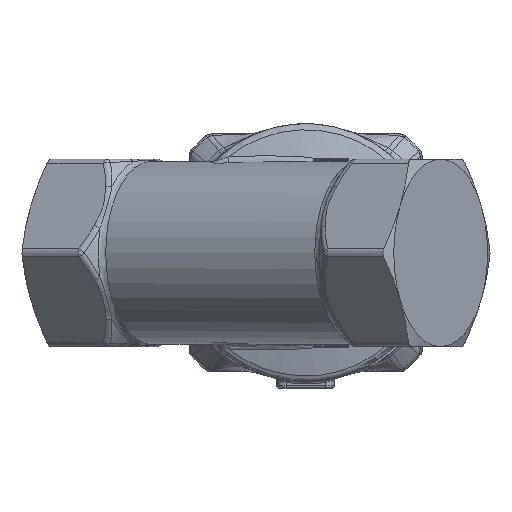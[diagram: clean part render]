
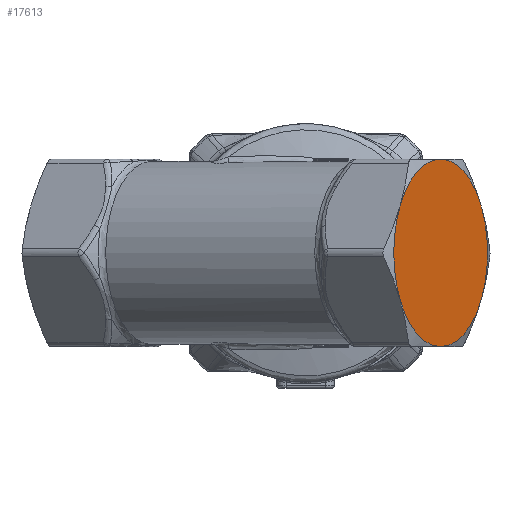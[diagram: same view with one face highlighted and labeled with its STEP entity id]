
A CAD part, front view. The second image highlights one B-rep face of the part: STEP entity #17613.
In plain terms, the highlighted planar face has unit normal (0.866, -0.5, 0).
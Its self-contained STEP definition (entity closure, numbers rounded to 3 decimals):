
#1022=PLANE($,#18692);
#1730=FACE_OUTER_BOUND($,#2838,.T.);
#2838=EDGE_LOOP($,(#14174,#14175,#14176,#14177,#14178,#14179));
#4687=CIRCLE($,#18693,22.875);
#4688=CIRCLE($,#18694,22.875);
#4689=CIRCLE($,#18695,22.875);
#4690=CIRCLE($,#18696,22.875);
#4691=CIRCLE($,#18697,22.875);
#4692=CIRCLE($,#18698,22.875);
#7708=VERTEX_POINT($,#44617);
#7709=VERTEX_POINT($,#44618);
#7710=VERTEX_POINT($,#44620);
#7711=VERTEX_POINT($,#44622);
#7712=VERTEX_POINT($,#44624);
#7713=VERTEX_POINT($,#44626);
#9905=EDGE_CURVE($,#7708,#7709,#4687,.T.);
#9906=EDGE_CURVE($,#7709,#7710,#4688,.T.);
#9907=EDGE_CURVE($,#7710,#7711,#4689,.T.);
#9908=EDGE_CURVE($,#7711,#7712,#4690,.T.);
#9909=EDGE_CURVE($,#7712,#7713,#4691,.T.);
#9910=EDGE_CURVE($,#7713,#7708,#4692,.T.);
#14174=ORIENTED_EDGE($,*,*,#9905,.T.);
#14175=ORIENTED_EDGE($,*,*,#9906,.T.);
#14176=ORIENTED_EDGE($,*,*,#9907,.T.);
#14177=ORIENTED_EDGE($,*,*,#9908,.T.);
#14178=ORIENTED_EDGE($,*,*,#9909,.T.);
#14179=ORIENTED_EDGE($,*,*,#9910,.T.);
#17613=ADVANCED_FACE($,(#1730),#1022,.F.);
#18692=AXIS2_PLACEMENT_3D($,#44616,#21227,#21228);
#18693=AXIS2_PLACEMENT_3D($,#44619,#21229,#21230);
#18694=AXIS2_PLACEMENT_3D($,#44621,#21231,#21232);
#18695=AXIS2_PLACEMENT_3D($,#44623,#21233,#21234);
#18696=AXIS2_PLACEMENT_3D($,#44625,#21235,#21236);
#18697=AXIS2_PLACEMENT_3D($,#44627,#21237,#21238);
#18698=AXIS2_PLACEMENT_3D($,#44628,#21239,#21240);
#21227=DIRECTION('center_axis',(-0.866,0.5,0.));
#21228=DIRECTION('ref_axis',(0.,0.,1.));
#21229=DIRECTION('center_axis',(0.866,-0.5,0.));
#21230=DIRECTION('ref_axis',(-0.5,-0.866,0.));
#21231=DIRECTION('center_axis',(0.866,-0.5,0.));
#21232=DIRECTION('ref_axis',(-0.5,-0.866,0.));
#21233=DIRECTION('center_axis',(0.866,-0.5,0.));
#21234=DIRECTION('ref_axis',(-0.5,-0.866,0.));
#21235=DIRECTION('center_axis',(0.866,-0.5,0.));
#21236=DIRECTION('ref_axis',(-0.5,-0.866,0.));
#21237=DIRECTION('center_axis',(0.866,-0.5,0.));
#21238=DIRECTION('ref_axis',(-0.5,-0.866,0.));
#21239=DIRECTION('center_axis',(0.866,-0.5,0.));
#21240=DIRECTION('ref_axis',(-0.5,-0.866,0.));
#44616=CARTESIAN_POINT('Origin',(32.909,-102.8,0.));
#44617=CARTESIAN_POINT('',(42.814,-85.644,11.437));
#44618=CARTESIAN_POINT('',(32.909,-102.8,22.875));
#44619=CARTESIAN_POINT('Origin',(32.909,-102.8,0.));
#44620=CARTESIAN_POINT('',(23.004,-119.956,11.437));
#44621=CARTESIAN_POINT('Origin',(32.909,-102.8,0.));
#44622=CARTESIAN_POINT('',(23.004,-119.956,-11.438));
#44623=CARTESIAN_POINT('Origin',(32.909,-102.8,0.));
#44624=CARTESIAN_POINT('',(32.909,-102.8,-22.875));
#44625=CARTESIAN_POINT('Origin',(32.909,-102.8,0.));
#44626=CARTESIAN_POINT('',(42.814,-85.644,-11.438));
#44627=CARTESIAN_POINT('Origin',(32.909,-102.8,0.));
#44628=CARTESIAN_POINT('Origin',(32.909,-102.8,0.));
